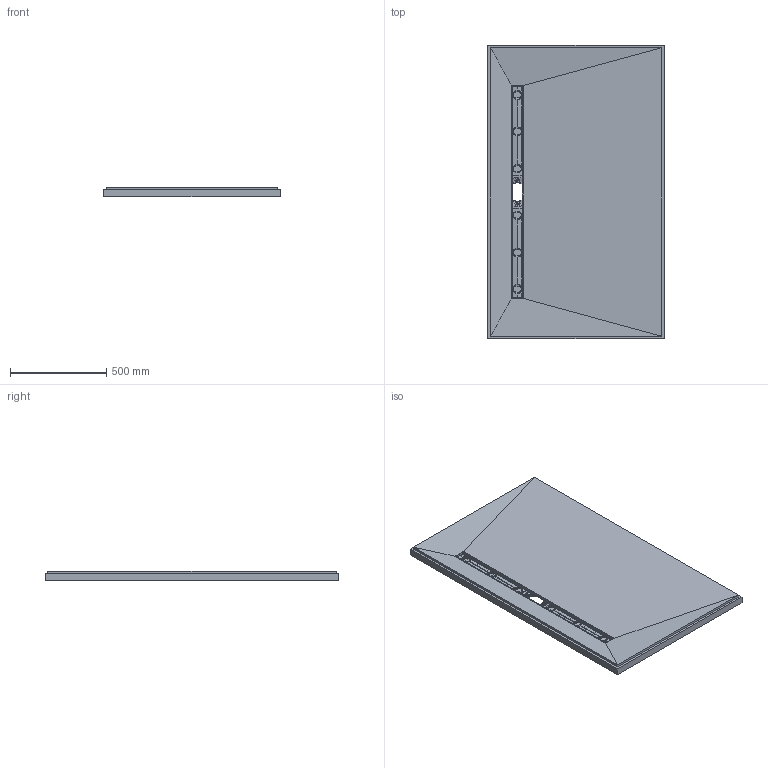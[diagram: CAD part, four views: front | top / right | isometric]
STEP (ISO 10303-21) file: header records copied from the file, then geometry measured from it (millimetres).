
FILE_DESCRIPTION(/* description */ ('Fertigteil'),/* implementation_level */ '2;1');
FILE_NAME(/* name */ 'C:\Users\fuser-vault-job\AppData\Local\Temp\MuM_qgkzni1w.tyd\D-000000636.iam_.step',/* time_stamp */ '2022-07-18T17:07:45+02:00',/* author */ ('ds'),/* organization */ (''),/* preprocessor_version */ 'ST-DEVELOPER v18.1',/* originating_system */ 'Autodesk Inventor 2020',/* authorisation */ '');
FILE_SCHEMA (('AUTOMOTIVE_DESIGN { 1 0 10303 214 3 1 1 }'));
Products named in the file (4): 075100151; 075100151_1; 075301012; D-000002181
Assembly tree (3 placements, depth 2):
  075100151
    075100151_1
    075301012
    D-000002181
Bounding box: 914.4 x 1524 x 50 mm (x, y, z)
Volume: 57297377.7 mm3; surface area: 3730362.4 mm2
Topology: 5 solids, 5 shells, 3641 faces, 8615 edges, 4892 vertices
Faces by surface type: cylinder 1474, bspline 1002, plane 666, sphere 344, torus 85, cone 70
Full cylindrical faces by diameter (mm): 8 x3, 123 x1
Entity records: 200514 total; most frequent: CARTESIAN_POINT 118939, ORIENTED_EDGE 16794, DIRECTION 15948, EDGE_CURVE 8397, AXIS2_PLACEMENT_3D 6329, VERTEX_POINT 4860, EDGE_LOOP 3747, FACE_OUTER_BOUND 3641
